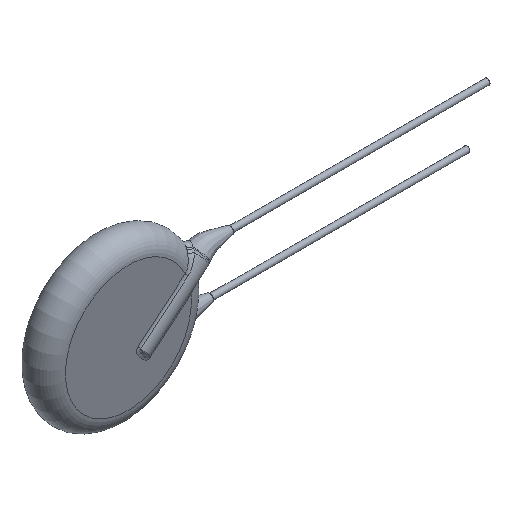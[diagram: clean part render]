
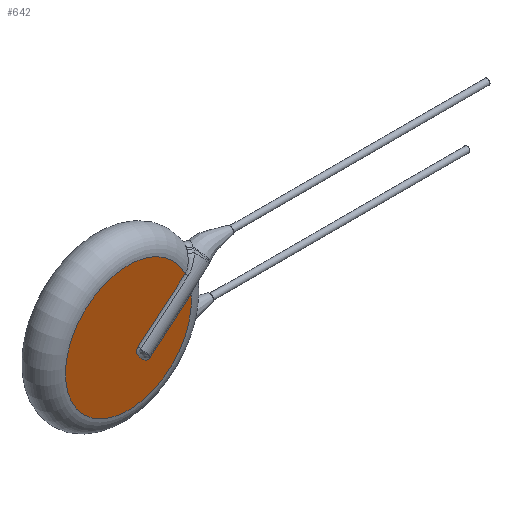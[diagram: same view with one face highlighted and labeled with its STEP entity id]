
A CAD part, isometric view. The second image highlights one B-rep face of the part: STEP entity #642.
In plain terms, the highlighted planar face has unit normal (0, -1, 0).
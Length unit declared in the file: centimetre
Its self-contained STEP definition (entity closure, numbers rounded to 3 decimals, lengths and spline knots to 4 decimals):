
#22=LINE('',#954,#30);
#24=LINE('',#1230,#32);
#30=VECTOR('',#754,0.5513);
#32=VECTOR('',#772,0.6459);
#45=B_SPLINE_CURVE_WITH_KNOTS('',3,(#925,#926,#927,#928,#929,#930,#931,
#932,#933,#934,#935),.UNSPECIFIED.,.F.,.F.,(4,1,1,1,1,1,1,1,4),(0.0403,
0.0771,0.1139,0.1323,0.1875,
0.2244,0.2612,0.2704,0.298),
 .UNSPECIFIED.);
#133=FACE_OUTER_BOUND('',#179,.T.);
#179=EDGE_LOOP('',(#455,#456,#457,#458));
#226=CIRCLE('',#694,0.66);
#252=VERTEX_POINT('',#922);
#253=VERTEX_POINT('',#924);
#255=VERTEX_POINT('',#950);
#269=VERTEX_POINT('',#1215);
#308=EDGE_CURVE('',#252,#253,#45,.T.);
#313=EDGE_CURVE('',#253,#255,#22,.T.);
#336=EDGE_CURVE('',#269,#252,#24,.T.);
#345=EDGE_CURVE('',#255,#269,#226,.T.);
#455=ORIENTED_EDGE('',*,*,#313,.F.);
#456=ORIENTED_EDGE('',*,*,#308,.F.);
#457=ORIENTED_EDGE('',*,*,#336,.F.);
#458=ORIENTED_EDGE('',*,*,#345,.F.);
#581=PLANE('',#695);
#642=ADVANCED_FACE('',(#133),#581,.F.);
#694=AXIS2_PLACEMENT_3D('',#1277,#777,#778);
#695=AXIS2_PLACEMENT_3D('',#1278,#779,#780);
#754=DIRECTION('',(0.766,0.,0.643));
#772=DIRECTION('',(-0.766,0.,-0.643));
#777=DIRECTION('center_axis',(0.,1.,0.));
#778=DIRECTION('ref_axis',(-1.,0.,0.));
#779=DIRECTION('center_axis',(0.,1.,0.));
#780=DIRECTION('ref_axis',(1.,0.,0.));
#922=CARTESIAN_POINT('',(0.1018,-0.115,-0.1329));
#924=CARTESIAN_POINT('',(0.2346,-0.115,-0.2912));
#925=CARTESIAN_POINT('Ctrl Pts',(0.1018,-0.115,-0.1329));
#926=CARTESIAN_POINT('Ctrl Pts',(0.0924,-0.115,-0.1408));
#927=CARTESIAN_POINT('Ctrl Pts',(0.0837,-0.115,-0.1659));
#928=CARTESIAN_POINT('Ctrl Pts',(0.0929,-0.115,-0.1961));
#929=CARTESIAN_POINT('Ctrl Pts',(0.1106,-0.115,-0.2283));
#930=CARTESIAN_POINT('Ctrl Pts',(0.1338,-0.115,-0.2572));
#931=CARTESIAN_POINT('Ctrl Pts',(0.1653,-0.115,-0.2863));
#932=CARTESIAN_POINT('Ctrl Pts',(0.1907,-0.115,-0.2989));
#933=CARTESIAN_POINT('Ctrl Pts',(0.2153,-0.115,-0.301));
#934=CARTESIAN_POINT('Ctrl Pts',(0.2276,-0.115,-0.2971));
#935=CARTESIAN_POINT('Ctrl Pts',(0.2346,-0.115,-0.2912));
#950=CARTESIAN_POINT('',(0.657,-0.115,0.0632));
#954=CARTESIAN_POINT('',(0.8606,-0.115,0.2341));
#1215=CARTESIAN_POINT('',(0.5966,-0.115,0.2822));
#1230=CARTESIAN_POINT('',(0.7278,-0.115,0.3924));
#1277=CARTESIAN_POINT('Origin',(0.,-0.115,0.));
#1278=CARTESIAN_POINT('Origin',(0.,-0.115,0.));
